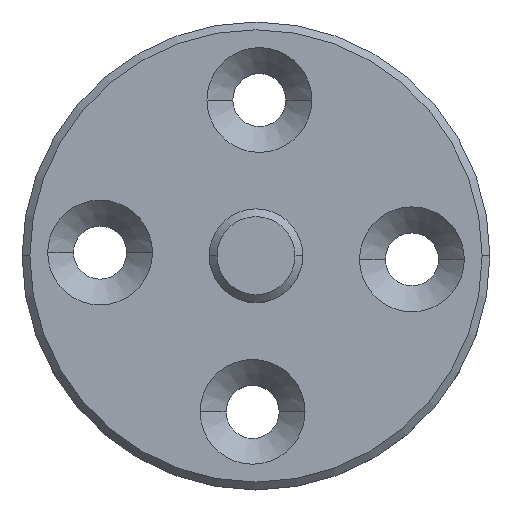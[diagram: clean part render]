
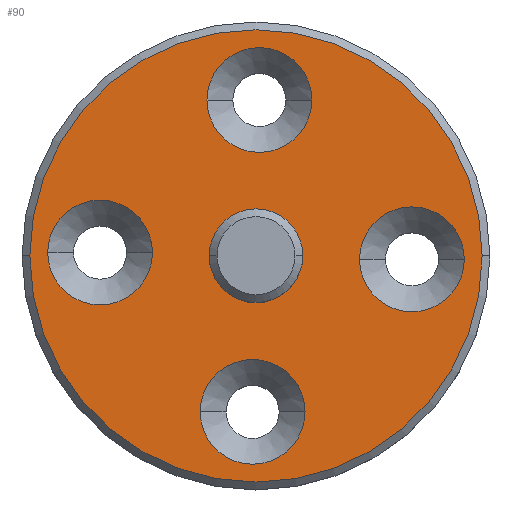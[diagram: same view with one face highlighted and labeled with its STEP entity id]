
A CAD part, top view. The second image highlights one B-rep face of the part: STEP entity #90.
In plain terms, the highlighted planar face has unit normal (0, 0, 1).
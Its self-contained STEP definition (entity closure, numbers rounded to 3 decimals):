
#48=FACE_BOUND('',#177,.T.);
#49=FACE_BOUND('',#178,.T.);
#50=FACE_BOUND('',#179,.T.);
#51=FACE_BOUND('',#180,.T.);
#52=FACE_BOUND('',#181,.T.);
#53=FACE_BOUND('',#182,.T.);
#57=PLANE('',#623);
#90=ADVANCED_FACE('NONE',(#48,#49,#50,#51,#52,#53),#57,.F.);
#177=EDGE_LOOP('',(#318,#319));
#178=EDGE_LOOP('',(#320,#321));
#179=EDGE_LOOP('',(#322,#323));
#180=EDGE_LOOP('',(#324,#325));
#181=EDGE_LOOP('',(#326,#327));
#182=EDGE_LOOP('',(#328,#329));
#198=CIRCLE('',#569,14.5);
#207=CIRCLE('',#582,3.36);
#210=CIRCLE('',#587,3.36);
#213=CIRCLE('',#592,3.36);
#216=CIRCLE('',#597,3.36);
#226=CIRCLE('',#613,3.);
#228=CIRCLE('',#617,3.36);
#229=CIRCLE('',#618,3.);
#230=CIRCLE('',#619,3.36);
#231=CIRCLE('',#620,3.36);
#232=CIRCLE('',#621,3.36);
#233=CIRCLE('',#622,14.5);
#318=ORIENTED_EDGE('',*,*,#467,.F.);
#319=ORIENTED_EDGE('',*,*,#494,.F.);
#320=ORIENTED_EDGE('',*,*,#495,.F.);
#321=ORIENTED_EDGE('',*,*,#491,.F.);
#322=ORIENTED_EDGE('',*,*,#474,.F.);
#323=ORIENTED_EDGE('',*,*,#496,.F.);
#324=ORIENTED_EDGE('',*,*,#460,.F.);
#325=ORIENTED_EDGE('',*,*,#497,.F.);
#326=ORIENTED_EDGE('',*,*,#453,.F.);
#327=ORIENTED_EDGE('',*,*,#498,.F.);
#328=ORIENTED_EDGE('',*,*,#435,.T.);
#329=ORIENTED_EDGE('',*,*,#499,.T.);
#390=VERTEX_POINT('',#837);
#392=VERTEX_POINT('',#840);
#407=VERTEX_POINT('',#874);
#409=VERTEX_POINT('',#878);
#413=VERTEX_POINT('',#889);
#415=VERTEX_POINT('',#893);
#419=VERTEX_POINT('',#904);
#421=VERTEX_POINT('',#908);
#425=VERTEX_POINT('',#919);
#427=VERTEX_POINT('',#923);
#432=VERTEX_POINT('',#951);
#433=VERTEX_POINT('',#953);
#435=EDGE_CURVE('NONE',#392,#390,#198,.T.);
#453=EDGE_CURVE('NONE',#409,#407,#207,.T.);
#460=EDGE_CURVE('NONE',#415,#413,#210,.T.);
#467=EDGE_CURVE('NONE',#421,#419,#213,.T.);
#474=EDGE_CURVE('NONE',#427,#425,#216,.T.);
#491=EDGE_CURVE('NONE',#432,#433,#226,.T.);
#494=EDGE_CURVE('NONE',#419,#421,#228,.T.);
#495=EDGE_CURVE('NONE',#433,#432,#229,.T.);
#496=EDGE_CURVE('NONE',#425,#427,#230,.T.);
#497=EDGE_CURVE('NONE',#413,#415,#231,.T.);
#498=EDGE_CURVE('NONE',#407,#409,#232,.T.);
#499=EDGE_CURVE('NONE',#390,#392,#233,.T.);
#569=AXIS2_PLACEMENT_3D('',#839,#650,#651);
#582=AXIS2_PLACEMENT_3D('',#879,#685,#686);
#587=AXIS2_PLACEMENT_3D('',#894,#699,#700);
#592=AXIS2_PLACEMENT_3D('',#909,#713,#714);
#597=AXIS2_PLACEMENT_3D('',#924,#727,#728);
#613=AXIS2_PLACEMENT_3D('',#952,#766,#767);
#617=AXIS2_PLACEMENT_3D('',#958,#775,#776);
#618=AXIS2_PLACEMENT_3D('',#959,#777,#778);
#619=AXIS2_PLACEMENT_3D('',#960,#779,#780);
#620=AXIS2_PLACEMENT_3D('',#961,#781,#782);
#621=AXIS2_PLACEMENT_3D('',#962,#783,#784);
#622=AXIS2_PLACEMENT_3D('',#963,#785,#786);
#623=AXIS2_PLACEMENT_3D('',#964,#787,#788);
#650=DIRECTION('',(0.,0.,1.));
#651=DIRECTION('',(-1.,0.,0.));
#685=DIRECTION('',(0.,0.,1.));
#686=DIRECTION('',(1.,0.,0.));
#699=DIRECTION('',(0.,0.,1.));
#700=DIRECTION('',(1.,0.,0.));
#713=DIRECTION('',(0.,0.,1.));
#714=DIRECTION('',(1.,0.,0.));
#727=DIRECTION('',(0.,0.,1.));
#728=DIRECTION('',(1.,0.,0.));
#766=DIRECTION('',(0.,0.,1.));
#767=DIRECTION('',(-1.,0.,0.));
#775=DIRECTION('',(0.,0.,1.));
#776=DIRECTION('',(1.,0.,0.));
#777=DIRECTION('',(0.,0.,1.));
#778=DIRECTION('',(-1.,0.,0.));
#779=DIRECTION('',(0.,0.,1.));
#780=DIRECTION('',(1.,0.,0.));
#781=DIRECTION('',(0.,0.,1.));
#782=DIRECTION('',(1.,0.,0.));
#783=DIRECTION('',(0.,0.,1.));
#784=DIRECTION('',(1.,0.,0.));
#785=DIRECTION('',(0.,0.,1.));
#786=DIRECTION('',(-1.,0.,0.));
#787=DIRECTION('',(0.,0.,-1.));
#788=DIRECTION('',(-1.,0.,0.));
#837=CARTESIAN_POINT('',(14.5,0.,-5.));
#839=CARTESIAN_POINT('',(0.,0.,-5.));
#840=CARTESIAN_POINT('',(-14.5,0.,-5.));
#874=CARTESIAN_POINT('',(6.638,-0.217,-5.));
#878=CARTESIAN_POINT('',(13.358,-0.217,-5.));
#879=CARTESIAN_POINT('',(9.998,-0.217,-5.));
#889=CARTESIAN_POINT('',(-3.577,-9.998,-5.));
#893=CARTESIAN_POINT('',(3.143,-9.998,-5.));
#894=CARTESIAN_POINT('',(-0.217,-9.998,-5.));
#904=CARTESIAN_POINT('',(-13.358,0.217,-5.));
#908=CARTESIAN_POINT('',(-6.638,0.217,-5.));
#909=CARTESIAN_POINT('',(-9.998,0.217,-5.));
#919=CARTESIAN_POINT('',(-3.143,9.998,-5.));
#923=CARTESIAN_POINT('',(3.577,9.998,-5.));
#924=CARTESIAN_POINT('',(0.217,9.998,-5.));
#951=CARTESIAN_POINT('',(-3.,0.,-5.));
#952=CARTESIAN_POINT('',(0.,0.,-5.));
#953=CARTESIAN_POINT('',(3.,0.,-5.));
#958=CARTESIAN_POINT('',(-9.998,0.217,-5.));
#959=CARTESIAN_POINT('',(0.,0.,-5.));
#960=CARTESIAN_POINT('',(0.217,9.998,-5.));
#961=CARTESIAN_POINT('',(-0.217,-9.998,-5.));
#962=CARTESIAN_POINT('',(9.998,-0.217,-5.));
#963=CARTESIAN_POINT('',(0.,0.,-5.));
#964=CARTESIAN_POINT('',(0.,3.,-5.));
